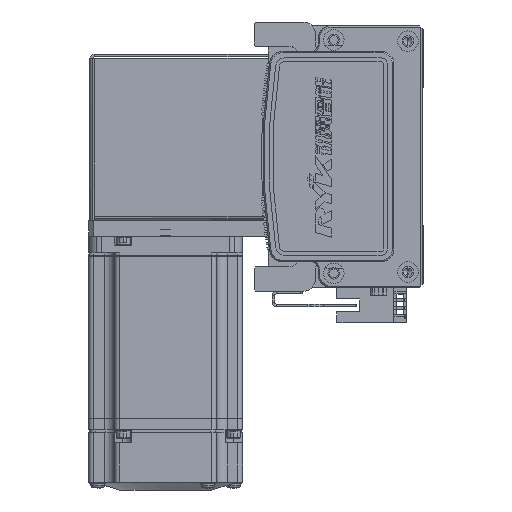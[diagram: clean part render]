
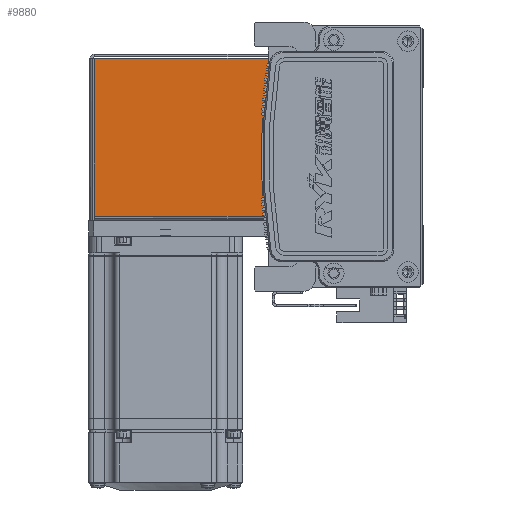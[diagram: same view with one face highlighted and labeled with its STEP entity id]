
A CAD part, left-side view. The second image highlights one B-rep face of the part: STEP entity #9880.
In plain terms, the highlighted planar face has unit normal (-1, 0, 0) as drawn and (0, 0, 1) by its records, which use the part's own axes.
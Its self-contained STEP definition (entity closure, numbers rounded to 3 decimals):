
#2535 = DIRECTION ( 'NONE',  ( -1., 0., 0. ) ) ;
#5196 = EDGE_CURVE ( 'NONE', #34347, #54332, #10618, .T. ) ;
#6820 = LINE ( 'NONE', #38164, #68821 ) ;
#8776 = CARTESIAN_POINT ( 'NONE',  ( -30.793, 0., 35. ) ) ;
#9880 = ADVANCED_FACE ( 'NONE', ( #39286 ), #52156, .F. ) ;
#10618 = LINE ( 'NONE', #8776, #17941 ) ;
#14693 = EDGE_CURVE ( 'NONE', #46953, #54332, #17570, .T. ) ;
#17570 = LINE ( 'NONE', #48388, #62231 ) ;
#17941 = VECTOR ( 'NONE', #73332, 1000. ) ;
#18090 = EDGE_LOOP ( 'NONE', ( #53018, #47807, #68563, #62278 ) ) ;
#26621 = CARTESIAN_POINT ( 'NONE',  ( -30.793, 0.737, 35. ) ) ;
#34347 = VERTEX_POINT ( 'NONE', #26621 ) ;
#34593 = EDGE_CURVE ( 'NONE', #66959, #46953, #48292, .T. ) ;
#35302 = CARTESIAN_POINT ( 'NONE',  ( 30.763, 0.737, 35. ) ) ;
#38164 = CARTESIAN_POINT ( 'NONE',  ( -32.5, 0.737, 35. ) ) ;
#39286 = FACE_OUTER_BOUND ( 'NONE', #18090, .T. ) ;
#45659 = CARTESIAN_POINT ( 'NONE',  ( -30.793, 68.5, 35. ) ) ;
#45738 = AXIS2_PLACEMENT_3D ( 'NONE', #70285, #46068, #69769 ) ;
#45842 = EDGE_CURVE ( 'NONE', #66959, #34347, #6820, .T. ) ;
#46068 = DIRECTION ( 'NONE',  ( 0., 0., -1. ) ) ;
#46953 = VERTEX_POINT ( 'NONE', #53847 ) ;
#47807 = ORIENTED_EDGE ( 'NONE', *, *, #14693, .T. ) ;
#48292 = LINE ( 'NONE', #35302, #52779 ) ;
#48388 = CARTESIAN_POINT ( 'NONE',  ( 0., 68.5, 35. ) ) ;
#50173 = CARTESIAN_POINT ( 'NONE',  ( 30.763, 0.737, 35. ) ) ;
#52156 = PLANE ( 'NONE',  #45738 ) ;
#52779 = VECTOR ( 'NONE', #69999, 1000. ) ;
#53018 = ORIENTED_EDGE ( 'NONE', *, *, #34593, .T. ) ;
#53847 = CARTESIAN_POINT ( 'NONE',  ( 30.763, 68.5, 35. ) ) ;
#54332 = VERTEX_POINT ( 'NONE', #45659 ) ;
#59805 = DIRECTION ( 'NONE',  ( -1., 0., 0. ) ) ;
#62231 = VECTOR ( 'NONE', #59805, 1000. ) ;
#62278 = ORIENTED_EDGE ( 'NONE', *, *, #45842, .F. ) ;
#66959 = VERTEX_POINT ( 'NONE', #50173 ) ;
#68563 = ORIENTED_EDGE ( 'NONE', *, *, #5196, .F. ) ;
#68821 = VECTOR ( 'NONE', #2535, 1000. ) ;
#69769 = DIRECTION ( 'NONE',  ( -1., 0., 0. ) ) ;
#69999 = DIRECTION ( 'NONE',  ( 0., 1., 0. ) ) ;
#70285 = CARTESIAN_POINT ( 'NONE',  ( 0., 0., 35. ) ) ;
#73332 = DIRECTION ( 'NONE',  ( 0., 1., 0. ) ) ;
